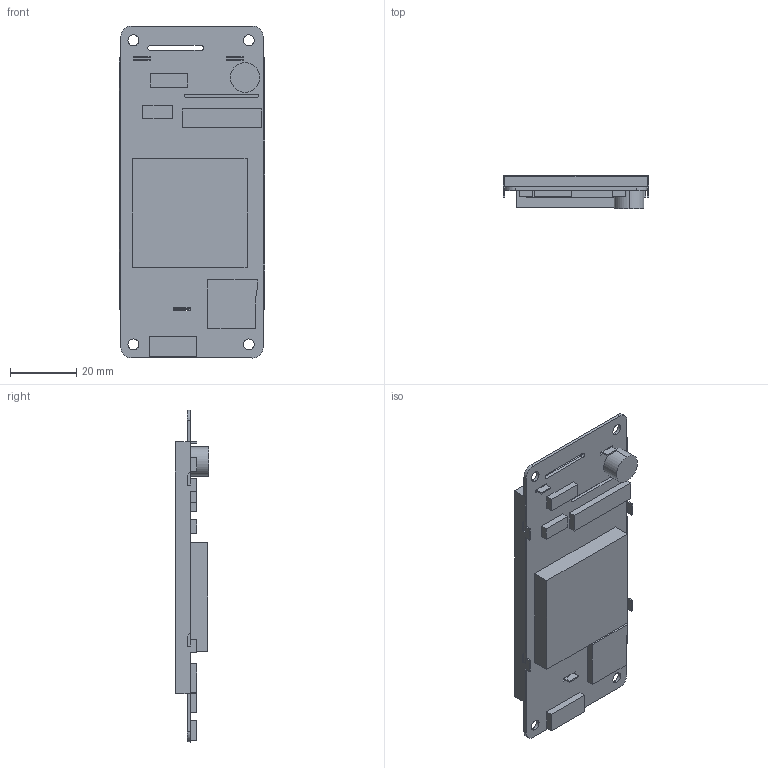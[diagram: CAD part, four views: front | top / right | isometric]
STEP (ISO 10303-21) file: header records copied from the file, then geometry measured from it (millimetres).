
FILE_DESCRIPTION((''),'2;1');
FILE_NAME('DMG64360K030_01WN','2022-05-23T',('Administrator'),(''),'PRO/ENGINEER BY PARAMETRIC TECHNOLOGY CORPORATION, 2011310','PRO/ENGINEER BY PARAMETRIC TECHNOLOGY CORPORATION, 2011310','');
FILE_SCHEMA(('CONFIG_CONTROL_DESIGN','SHAPE_APPEARANCE_LAYERS_GROUPS'));
Length unit declared in the file: millimetre
Products named in the file (1): DMG64360K030_01WN
Bounding box: 43.8 x 10 x 100 mm (x, y, z)
Volume: 19493.6 mm3; surface area: 18428 mm2
Topology: 1 solids, 1 shells, 162 faces, 460 edges, 300 vertices
Faces by surface type: plane 140, cylinder 22
Entity records: 6336 total; most frequent: CARTESIAN_POINT 922, ORIENTED_EDGE 920, DIRECTION 828, EDGE_CURVE 460, VECTOR 416, LINE 416, VERTEX_POINT 300, AXIS2_PLACEMENT_3D 206
